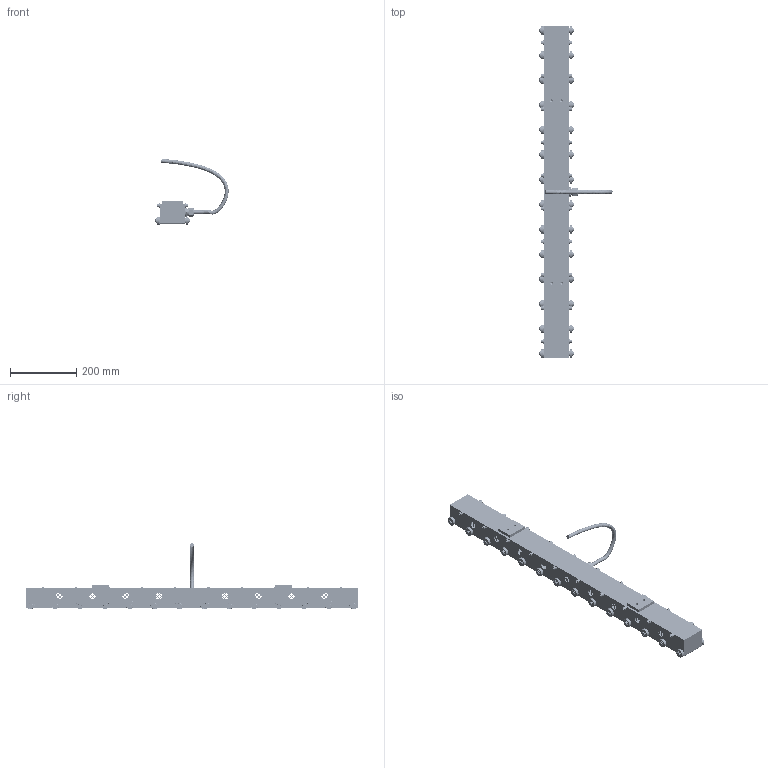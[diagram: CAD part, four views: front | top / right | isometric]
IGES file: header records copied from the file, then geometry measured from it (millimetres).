
Global section: file name: SEC-RO-077Wx067Hx1000L; native system: unknown; preprocessor: unknown; author: unknown; organization: unknown; date: 20221121.135331; units: millimetre
Bounding box: 220.81 x 1001 x 199.66 mm (x, y, z)
Volume: 1848925.8 mm3; surface area: 842871.9 mm2
Topology: 554 solids, 582 shells, 8035 faces, 22965 edges, 15444 vertices
Faces by surface type: bspline 8035
